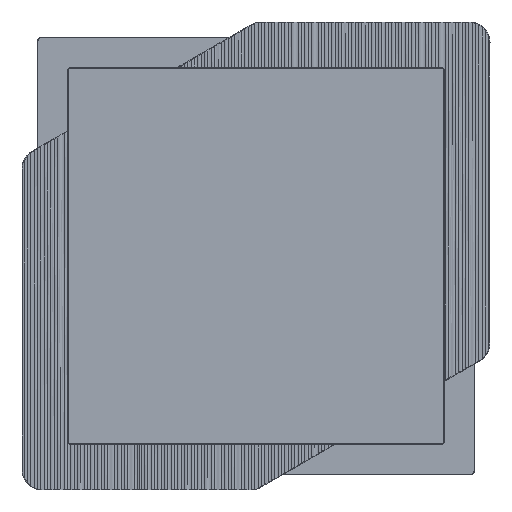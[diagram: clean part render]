
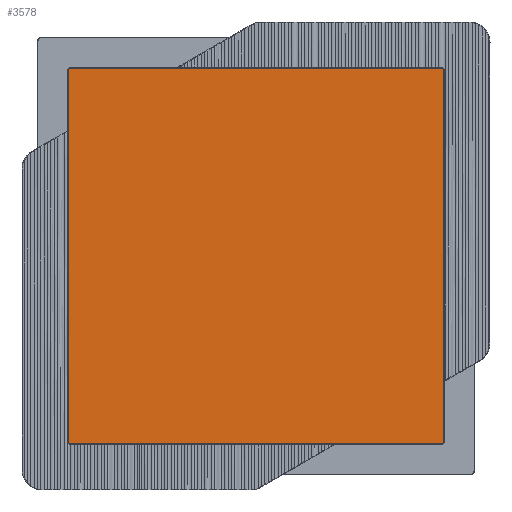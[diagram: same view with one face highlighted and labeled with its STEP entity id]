
A CAD part, front view. The second image highlights one B-rep face of the part: STEP entity #3578.
In plain terms, the highlighted planar face has unit normal (0, -1, 0).
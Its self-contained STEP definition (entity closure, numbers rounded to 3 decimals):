
#1715=(
BOUNDED_CURVE()
B_SPLINE_CURVE(2,(#35206,#35207,#35208),.UNSPECIFIED.,.F.,.F.)
B_SPLINE_CURVE_WITH_KNOTS((3,3),(0.,3.142),.UNSPECIFIED.)
CURVE()
GEOMETRIC_REPRESENTATION_ITEM()
RATIONAL_B_SPLINE_CURVE((1.,0.707,1.))
REPRESENTATION_ITEM('')
);
#1717=(
BOUNDED_CURVE()
B_SPLINE_CURVE(2,(#35226,#35227,#35228),.UNSPECIFIED.,.F.,.F.)
B_SPLINE_CURVE_WITH_KNOTS((3,3),(0.,3.142),.UNSPECIFIED.)
CURVE()
GEOMETRIC_REPRESENTATION_ITEM()
RATIONAL_B_SPLINE_CURVE((1.,0.707,1.))
REPRESENTATION_ITEM('')
);
#1719=(
BOUNDED_CURVE()
B_SPLINE_CURVE(2,(#35238,#35239,#35240),.UNSPECIFIED.,.F.,.F.)
B_SPLINE_CURVE_WITH_KNOTS((3,3),(0.,3.142),.UNSPECIFIED.)
CURVE()
GEOMETRIC_REPRESENTATION_ITEM()
RATIONAL_B_SPLINE_CURVE((1.,0.707,1.))
REPRESENTATION_ITEM('')
);
#1721=(
BOUNDED_CURVE()
B_SPLINE_CURVE(2,(#35262,#35263,#35264),.UNSPECIFIED.,.F.,.F.)
B_SPLINE_CURVE_WITH_KNOTS((3,3),(0.,3.142),.UNSPECIFIED.)
CURVE()
GEOMETRIC_REPRESENTATION_ITEM()
RATIONAL_B_SPLINE_CURVE((1.,0.707,1.))
REPRESENTATION_ITEM('')
);
#3578=ADVANCED_FACE('',(#4509),#15058,.T.);
#4509=FACE_OUTER_BOUND('',#5442,.T.);
#5442=EDGE_LOOP('',(#10187,#10188,#10189,#10190,#10191,#10192,#10193,#10194));
#10187=ORIENTED_EDGE('',*,*,#12722,.T.);
#10188=ORIENTED_EDGE('',*,*,#12757,.T.);
#10189=ORIENTED_EDGE('',*,*,#12725,.T.);
#10190=ORIENTED_EDGE('',*,*,#12732,.T.);
#10191=ORIENTED_EDGE('',*,*,#12723,.T.);
#10192=ORIENTED_EDGE('',*,*,#12741,.T.);
#10193=ORIENTED_EDGE('',*,*,#12724,.T.);
#10194=ORIENTED_EDGE('',*,*,#12746,.T.);
#12722=EDGE_CURVE('',#15002,#15003,#13462,.T.);
#12723=EDGE_CURVE('',#15005,#15006,#13463,.T.);
#12724=EDGE_CURVE('',#15007,#15004,#13464,.T.);
#12725=EDGE_CURVE('',#15008,#15009,#13465,.T.);
#12732=EDGE_CURVE('',#15009,#15005,#1715,.T.);
#12741=EDGE_CURVE('',#15006,#15007,#1717,.T.);
#12746=EDGE_CURVE('',#15004,#15002,#1719,.T.);
#12757=EDGE_CURVE('',#15003,#15008,#1721,.T.);
#13462=B_SPLINE_CURVE_WITH_KNOTS('',1,(#35185,#35186),.UNSPECIFIED.,.F.,
 .F.,(2,2),(0.,894.005),.UNSPECIFIED.);
#13463=B_SPLINE_CURVE_WITH_KNOTS('',1,(#35187,#35188),.UNSPECIFIED.,.F.,
 .F.,(2,2),(0.,894.005),.UNSPECIFIED.);
#13464=B_SPLINE_CURVE_WITH_KNOTS('',1,(#35189,#35190),.UNSPECIFIED.,.F.,
 .F.,(2,2),(0.,894.),.UNSPECIFIED.);
#13465=B_SPLINE_CURVE_WITH_KNOTS('',1,(#35191,#35192),.UNSPECIFIED.,.F.,
 .F.,(2,2),(0.,894.),.UNSPECIFIED.);
#15002=VERTEX_POINT('',#35129);
#15003=VERTEX_POINT('',#35130);
#15004=VERTEX_POINT('',#35131);
#15005=VERTEX_POINT('',#35132);
#15006=VERTEX_POINT('',#35133);
#15007=VERTEX_POINT('',#35134);
#15008=VERTEX_POINT('',#35135);
#15009=VERTEX_POINT('',#35136);
#15058=PLANE('',#15113);
#15113=AXIS2_PLACEMENT_3D('',#35048,#15151,$);
#15151=DIRECTION('',(0.,-1.,0.));
#35048=CARTESIAN_POINT('',(-3612.026,-513.604,76.168));
#35129=CARTESIAN_POINT('',(-2602.52,-513.604,1087.668));
#35130=CARTESIAN_POINT('',(-3496.525,-513.604,1087.668));
#35131=CARTESIAN_POINT('',(-2600.52,-513.604,1085.668));
#35132=CARTESIAN_POINT('',(-3496.525,-513.604,189.668));
#35133=CARTESIAN_POINT('',(-2602.52,-513.604,189.668));
#35134=CARTESIAN_POINT('',(-2600.52,-513.604,191.668));
#35135=CARTESIAN_POINT('',(-3498.525,-513.604,1085.668));
#35136=CARTESIAN_POINT('',(-3498.525,-513.604,191.668));
#35185=CARTESIAN_POINT('',(-2602.52,-513.604,1087.668));
#35186=CARTESIAN_POINT('',(-3496.525,-513.604,1087.668));
#35187=CARTESIAN_POINT('',(-3496.525,-513.604,189.668));
#35188=CARTESIAN_POINT('',(-2602.52,-513.604,189.668));
#35189=CARTESIAN_POINT('',(-2600.52,-513.604,191.668));
#35190=CARTESIAN_POINT('',(-2600.52,-513.604,1085.668));
#35191=CARTESIAN_POINT('',(-3498.525,-513.604,1085.668));
#35192=CARTESIAN_POINT('',(-3498.525,-513.604,191.668));
#35206=CARTESIAN_POINT('',(-3498.525,-513.604,191.668));
#35207=CARTESIAN_POINT('',(-3498.525,-513.604,189.668));
#35208=CARTESIAN_POINT('',(-3496.525,-513.604,189.668));
#35226=CARTESIAN_POINT('',(-2602.52,-513.604,189.668));
#35227=CARTESIAN_POINT('',(-2600.52,-513.604,189.668));
#35228=CARTESIAN_POINT('',(-2600.52,-513.604,191.668));
#35238=CARTESIAN_POINT('',(-2600.52,-513.604,1085.668));
#35239=CARTESIAN_POINT('',(-2600.52,-513.604,1087.668));
#35240=CARTESIAN_POINT('',(-2602.52,-513.604,1087.668));
#35262=CARTESIAN_POINT('',(-3496.525,-513.604,1087.668));
#35263=CARTESIAN_POINT('',(-3498.525,-513.604,1087.668));
#35264=CARTESIAN_POINT('',(-3498.525,-513.604,1085.668));
